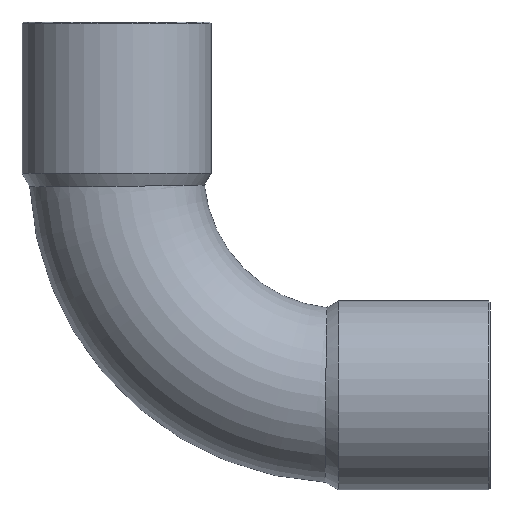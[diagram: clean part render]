
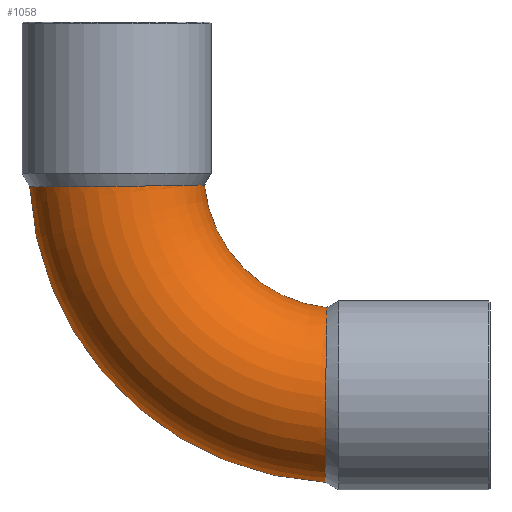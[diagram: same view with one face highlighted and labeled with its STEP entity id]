
A CAD part, front view. The second image highlights one B-rep face of the part: STEP entity #1058.
In plain terms, the highlighted toroidal (fillet/blend) face has major radius 18 mm and minor radius 7 mm.
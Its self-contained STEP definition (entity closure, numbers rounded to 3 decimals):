
#49=CARTESIAN_POINT('',(-2.933,0.,-1.255));
#50=VERTEX_POINT('',#49);
#51=CARTESIAN_POINT('',(20.781,0.,-24.969));
#52=VERTEX_POINT('',#51);
#53=CARTESIAN_POINT('',(22.035,0.,0.0));
#54=DIRECTION('',(0.0,-1.0,0.0));
#55=DIRECTION('',(0.0,0.0,-1.0));
#56=AXIS2_PLACEMENT_3D('',#53,#54,#55);
#57=CIRCLE('',#56,25.0);
#58=EDGE_CURVE('',#50,#52,#57,.T.);
#60=CARTESIAN_POINT('',(11.091,0.,-1.104));
#61=VERTEX_POINT('',#60);
#85=CARTESIAN_POINT('',(20.931,0.,-10.944));
#86=VERTEX_POINT('',#85);
#87=CARTESIAN_POINT('',(22.035,0.,0.0));
#88=DIRECTION('',(0.0,1.0,0.0));
#89=DIRECTION('',(0.0,0.0,-1.0));
#90=AXIS2_PLACEMENT_3D('',#87,#88,#89);
#91=CIRCLE('',#90,11.);
#92=EDGE_CURVE('',#86,#61,#91,.T.);
#224=CARTESIAN_POINT('',(11.091,0.,-1.104));
#225=CARTESIAN_POINT('',(11.091,-0.06,-1.104));
#226=CARTESIAN_POINT('',(11.09,-0.12,-1.104));
#227=CARTESIAN_POINT('',(11.065,-1.09,-1.104));
#228=CARTESIAN_POINT('',(10.863,-1.987,-1.108));
#229=CARTESIAN_POINT('',(10.127,-3.655,-1.121));
#230=CARTESIAN_POINT('',(9.598,-4.41,-1.13));
#231=CARTESIAN_POINT('',(8.28,-5.676,-1.15));
#232=CARTESIAN_POINT('',(7.503,-6.175,-1.161));
#233=CARTESIAN_POINT('',(5.802,-6.846,-1.182));
#234=CARTESIAN_POINT('',(4.894,-7.012,-1.192));
#235=CARTESIAN_POINT('',(3.066,-6.987,-1.21));
#236=CARTESIAN_POINT('',(2.164,-6.796,-1.218));
#237=CARTESIAN_POINT('',(0.485,-6.081,-1.231));
#238=CARTESIAN_POINT('',(-0.276,-5.563,-1.237));
#239=CARTESIAN_POINT('',(-1.557,-4.265,-1.246));
#240=CARTESIAN_POINT('',(-2.064,-3.498,-1.249));
#241=CARTESIAN_POINT('',(-2.756,-1.813,-1.253));
#242=CARTESIAN_POINT('',(-2.933,-0.911,-1.255));
#243=CARTESIAN_POINT('',(-2.933,0.,-1.255));
#244=B_SPLINE_CURVE_WITH_KNOTS('',3,(#224,#225,#226,#227,#228,#229,#230,#231,#232,#233,#234,#235,#236,#237,#238,#239,#240,#241,#242,#243),.UNSPECIFIED.,.F.,.U.,(4,2,2,2,2,2,2,2,2,4),(-2.208,-2.19,-1.917,-1.643,-1.368,-1.094,-0.82,-0.547,-0.273,0.0),.UNSPECIFIED.);
#245=EDGE_CURVE('',#61,#50,#244,.T.);
#1025=CARTESIAN_POINT('',(22.035,0.,0.0));
#1026=DIRECTION('',(0.0,-1.0,0.0));
#1027=DIRECTION('',(0.0,0.0,-1.0));
#1028=AXIS2_PLACEMENT_3D('',#1025,#1026,#1027);
#1029=TOROIDAL_SURFACE('',#1028,18.0,7.);
#1030=ORIENTED_EDGE('',*,*,#58,.T.);
#1031=CARTESIAN_POINT('',(20.781,0.,-24.969));
#1032=CARTESIAN_POINT('',(20.781,-0.516,-24.969));
#1033=CARTESIAN_POINT('',(20.781,-1.03,-24.911));
#1034=CARTESIAN_POINT('',(20.782,-2.036,-24.685));
#1035=CARTESIAN_POINT('',(20.783,-2.526,-24.517));
#1036=CARTESIAN_POINT('',(20.787,-3.816,-23.906));
#1037=CARTESIAN_POINT('',(20.791,-4.556,-23.359));
#1038=CARTESIAN_POINT('',(20.8,-5.785,-22.01));
#1039=CARTESIAN_POINT('',(20.806,-6.263,-21.222));
#1040=CARTESIAN_POINT('',(20.821,-6.889,-19.505));
#1041=CARTESIAN_POINT('',(20.829,-7.031,-18.593));
#1042=CARTESIAN_POINT('',(20.847,-6.958,-16.765));
#1043=CARTESIAN_POINT('',(20.857,-6.743,-15.867));
#1044=CARTESIAN_POINT('',(20.878,-5.982,-14.205));
#1045=CARTESIAN_POINT('',(20.889,-5.443,-13.457));
#1046=CARTESIAN_POINT('',(20.908,-4.112,-12.211));
#1047=CARTESIAN_POINT('',(20.917,-3.332,-11.724));
#1048=CARTESIAN_POINT('',(20.928,-1.688,-11.099));
#1049=CARTESIAN_POINT('',(20.931,-0.848,-10.944));
#1050=CARTESIAN_POINT('',(20.931,0.,-10.944));
#1051=B_SPLINE_CURVE_WITH_KNOTS('',3,(#1031,#1032,#1033,#1034,#1035,#1036,#1037,#1038,#1039,#1040,#1041,#1042,#1043,#1044,#1045,#1046,#1047,#1048,#1049,#1050),.UNSPECIFIED.,.F.,.U.,(4,2,2,2,2,2,2,2,2,4),(-4.415,-4.26,-4.106,-3.832,-3.558,-3.284,-3.009,-2.736,-2.462,-2.208),.UNSPECIFIED.);
#1052=EDGE_CURVE('',#52,#86,#1051,.T.);
#1053=ORIENTED_EDGE('',*,*,#1052,.T.);
#1054=ORIENTED_EDGE('',*,*,#92,.T.);
#1055=ORIENTED_EDGE('',*,*,#245,.T.);
#1056=EDGE_LOOP('',(#1030,#1053,#1054,#1055));
#1057=FACE_OUTER_BOUND('',#1056,.T.);
#1058=ADVANCED_FACE('',(#1057),#1029,.T.);
